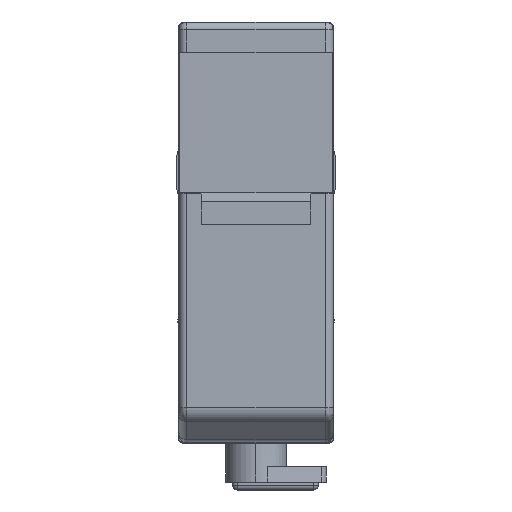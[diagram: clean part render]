
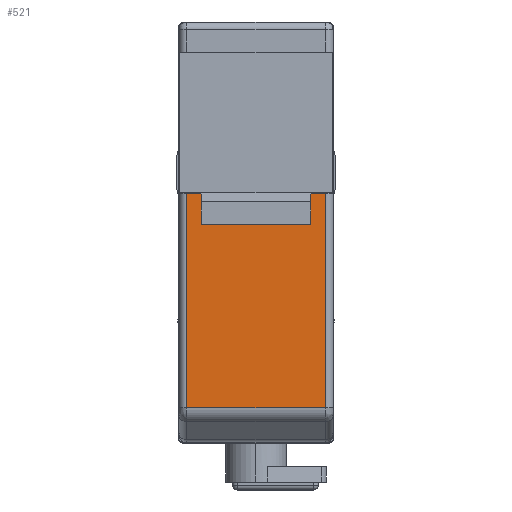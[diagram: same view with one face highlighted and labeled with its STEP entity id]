
A CAD part, top view. The second image highlights one B-rep face of the part: STEP entity #521.
In plain terms, the highlighted planar face has unit normal (0, 0, 1).
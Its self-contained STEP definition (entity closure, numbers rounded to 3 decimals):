
#521=ADVANCED_FACE('',(#2875),#2874,.F.);
#2874=PLANE('',#5242);
#2875=FACE_OUTER_BOUND('',#5243,.T.);
#5239=CARTESIAN_POINT('',(5.34,-26.283,27.4));
#5240=DIRECTION('',(0.,0.,-1.));
#5241=DIRECTION('',(-1.,0.,0.));
#5242=AXIS2_PLACEMENT_3D('',#5239,#5240,#5241);
#5243=EDGE_LOOP('',(#7041,#7042,#7043,#7044,#7045,#7046,#7047,#7048));
#7041=ORIENTED_EDGE('',*,*,#8174,.F.);
#7042=ORIENTED_EDGE('',*,*,#8181,.T.);
#7043=ORIENTED_EDGE('',*,*,#8182,.T.);
#7044=ORIENTED_EDGE('',*,*,#8183,.T.);
#7045=ORIENTED_EDGE('',*,*,#8166,.F.);
#7046=ORIENTED_EDGE('',*,*,#8102,.F.);
#7047=ORIENTED_EDGE('',*,*,#8111,.F.);
#7048=ORIENTED_EDGE('',*,*,#8104,.T.);
#8102=EDGE_CURVE('',#11920,#11905,#11927,.T.);
#8104=EDGE_CURVE('',#11941,#11934,#11942,.T.);
#8111=EDGE_CURVE('',#11941,#11920,#11987,.T.);
#8166=EDGE_CURVE('',#11905,#12357,#12358,.T.);
#8174=EDGE_CURVE('',#12404,#11934,#12411,.T.);
#8181=EDGE_CURVE('',#12404,#12457,#12458,.T.);
#8182=EDGE_CURVE('',#12457,#12464,#12465,.T.);
#8183=EDGE_CURVE('',#12464,#12357,#12471,.T.);
#11905=VERTEX_POINT('',#16091);
#11920=VERTEX_POINT('',#16100);
#11927=LINE('',#16104,#16105);
#11934=VERTEX_POINT('',#16108);
#11941=VERTEX_POINT('',#16112);
#11942=LINE('',#16113,#16114);
#11987=LINE('',#16137,#16138);
#12357=VERTEX_POINT('',#16346);
#12358=LINE('',#16347,#16348);
#12404=VERTEX_POINT('',#16373);
#12411=LINE('',#16378,#16379);
#12457=VERTEX_POINT('',#16403);
#12458=LINE('',#16404,#16405);
#12464=VERTEX_POINT('',#16407);
#12465=LINE('',#16408,#16409);
#12471=LINE('',#16411,#16412);
#16091=CARTESIAN_POINT('',(4.,-11.,27.4));
#16100=CARTESIAN_POINT('',(4.,-9.5,27.4));
#16104=CARTESIAN_POINT('',(4.,-9.5,27.4));
#16105=VECTOR('',#16106,1.5);
#16106=DIRECTION('',(0.,-1.,0.));
#16108=CARTESIAN_POINT('',(-4.,-11.,27.4));
#16112=CARTESIAN_POINT('',(-4.,-9.5,27.4));
#16113=CARTESIAN_POINT('',(-4.,-9.5,27.4));
#16114=VECTOR('',#16115,1.5);
#16115=DIRECTION('',(0.,-1.,0.));
#16137=CARTESIAN_POINT('',(-4.,-9.5,27.4));
#16138=VECTOR('',#16139,8.);
#16139=DIRECTION('',(1.,0.,0.));
#16346=CARTESIAN_POINT('',(4.45,-11.,27.4));
#16347=CARTESIAN_POINT('',(4.,-11.,27.4));
#16348=VECTOR('',#16349,0.45);
#16349=DIRECTION('',(1.,0.,0.));
#16373=CARTESIAN_POINT('',(-4.45,-11.,27.4));
#16378=CARTESIAN_POINT('',(-4.45,-11.,27.4));
#16379=VECTOR('',#16380,0.45);
#16380=DIRECTION('',(1.,0.,0.));
#16403=CARTESIAN_POINT('',(-4.45,-24.758,27.4));
#16404=CARTESIAN_POINT('',(-4.45,-11.,27.4));
#16405=VECTOR('',#16406,13.758);
#16406=DIRECTION('',(0.,-1.,0.));
#16407=CARTESIAN_POINT('',(4.45,-24.758,27.4));
#16408=CARTESIAN_POINT('',(-4.45,-24.758,27.4));
#16409=VECTOR('',#16410,8.9);
#16410=DIRECTION('',(1.,0.,0.));
#16411=CARTESIAN_POINT('',(4.45,-24.758,27.4));
#16412=VECTOR('',#16413,13.758);
#16413=DIRECTION('',(0.,1.,0.));
